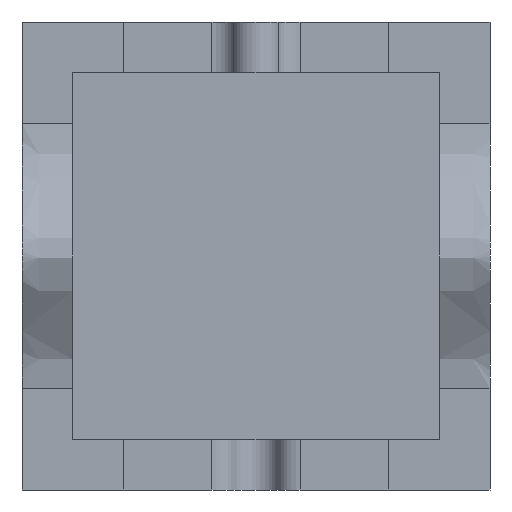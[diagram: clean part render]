
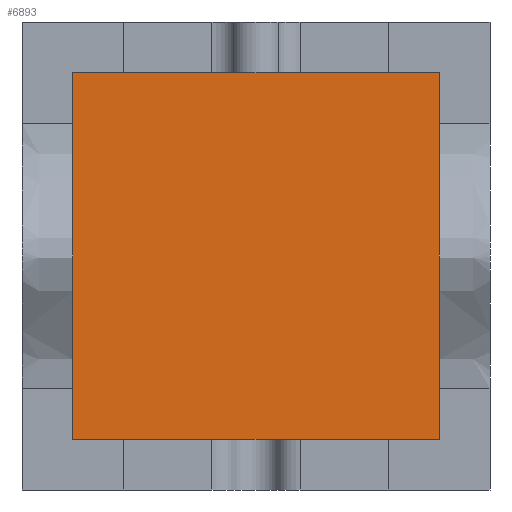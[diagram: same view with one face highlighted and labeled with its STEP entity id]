
A CAD part, front view. The second image highlights one B-rep face of the part: STEP entity #6893.
In plain terms, the highlighted planar face has unit normal (0, -1, 0).
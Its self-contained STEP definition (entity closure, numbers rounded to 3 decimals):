
#6767=CARTESIAN_POINT('Vertex',(-20.,-30.,-20.)) ;
#6772=CARTESIAN_POINT('Line Origine',(-20.,-30.,52.)) ;
#6776=CARTESIAN_POINT('Vertex',(-20.,-30.,124.)) ;
#6803=CARTESIAN_POINT('Line Origine',(52.,-30.,124.)) ;
#6807=CARTESIAN_POINT('Vertex',(124.,-30.,124.)) ;
#6834=CARTESIAN_POINT('Line Origine',(124.,-30.,52.)) ;
#6838=CARTESIAN_POINT('Vertex',(124.,-30.,-20.)) ;
#6865=CARTESIAN_POINT('Line Origine',(52.,-30.,-20.)) ;
#6882=CARTESIAN_POINT('Axis2P3D Location',(0.,-30.,0.)) ;
#6773=DIRECTION('Vector Direction',(0.,0.,-1.)) ;
#6804=DIRECTION('Vector Direction',(1.,0.,0.)) ;
#6835=DIRECTION('Vector Direction',(0.,0.,1.)) ;
#6866=DIRECTION('Vector Direction',(-1.,0.,0.)) ;
#6883=DIRECTION('Axis2P3D Direction',(0.,1.,0.)) ;
#6884=DIRECTION('Axis2P3D XDirection',(-1.,0.,0.)) ;
#6885=AXIS2_PLACEMENT_3D('Plane Axis2P3D',#6882,#6883,#6884) ;
#6888=ORIENTED_EDGE('',*,*,#6869,.F.) ;
#6889=ORIENTED_EDGE('',*,*,#6840,.F.) ;
#6890=ORIENTED_EDGE('',*,*,#6809,.F.) ;
#6891=ORIENTED_EDGE('',*,*,#6778,.F.) ;
#6774=VECTOR('Line Direction',#6773,1.) ;
#6805=VECTOR('Line Direction',#6804,1.) ;
#6836=VECTOR('Line Direction',#6835,1.) ;
#6867=VECTOR('Line Direction',#6866,1.) ;
#6893=ADVANCED_FACE('Cavity-molde',(#6892),#6886,.F.) ;
#6778=EDGE_CURVE('',#6768,#6777,#6775,.F.) ;
#6809=EDGE_CURVE('',#6777,#6808,#6806,.T.) ;
#6840=EDGE_CURVE('',#6808,#6839,#6837,.F.) ;
#6869=EDGE_CURVE('',#6839,#6768,#6868,.T.) ;
#6887=EDGE_LOOP('',(#6888,#6889,#6890,#6891)) ;
#6892=FACE_OUTER_BOUND('',#6887,.T.) ;
#6775=LINE('Line',#6772,#6774) ;
#6806=LINE('Line',#6803,#6805) ;
#6837=LINE('Line',#6834,#6836) ;
#6868=LINE('Line',#6865,#6867) ;
#6886=PLANE('',#6885) ;
#6768=VERTEX_POINT('',#6767) ;
#6777=VERTEX_POINT('',#6776) ;
#6808=VERTEX_POINT('',#6807) ;
#6839=VERTEX_POINT('',#6838) ;
